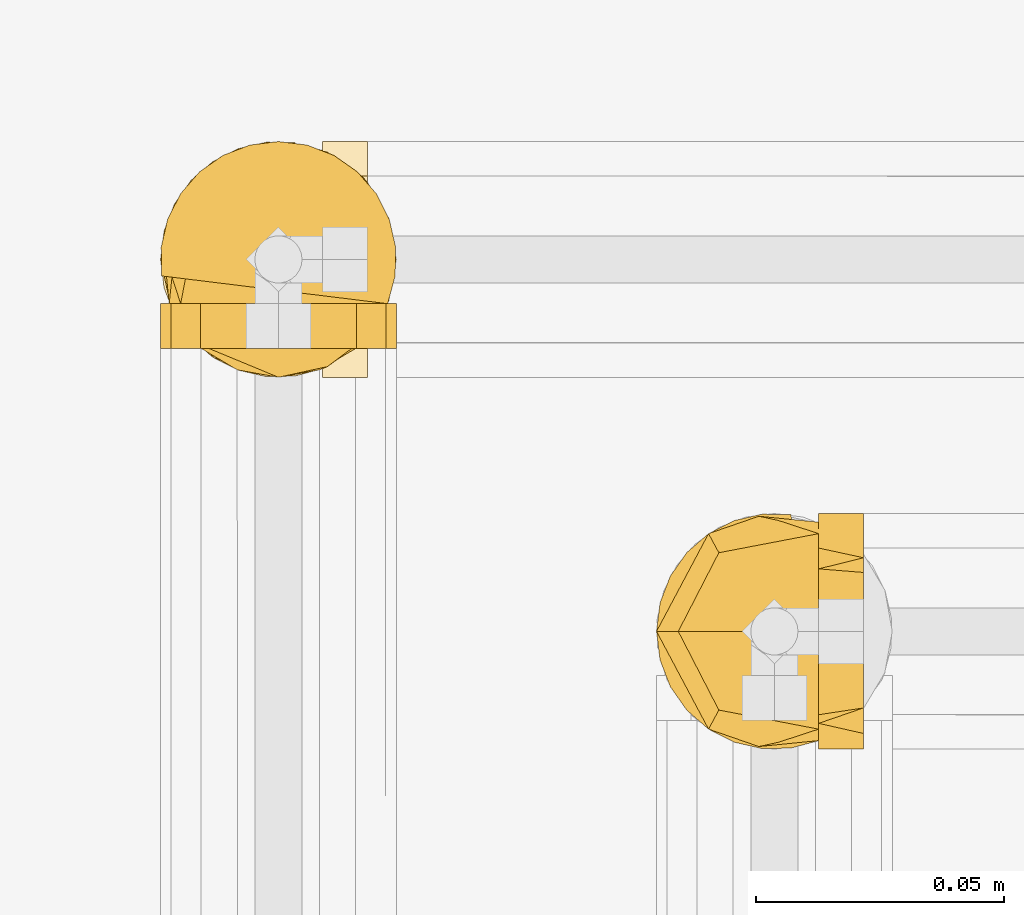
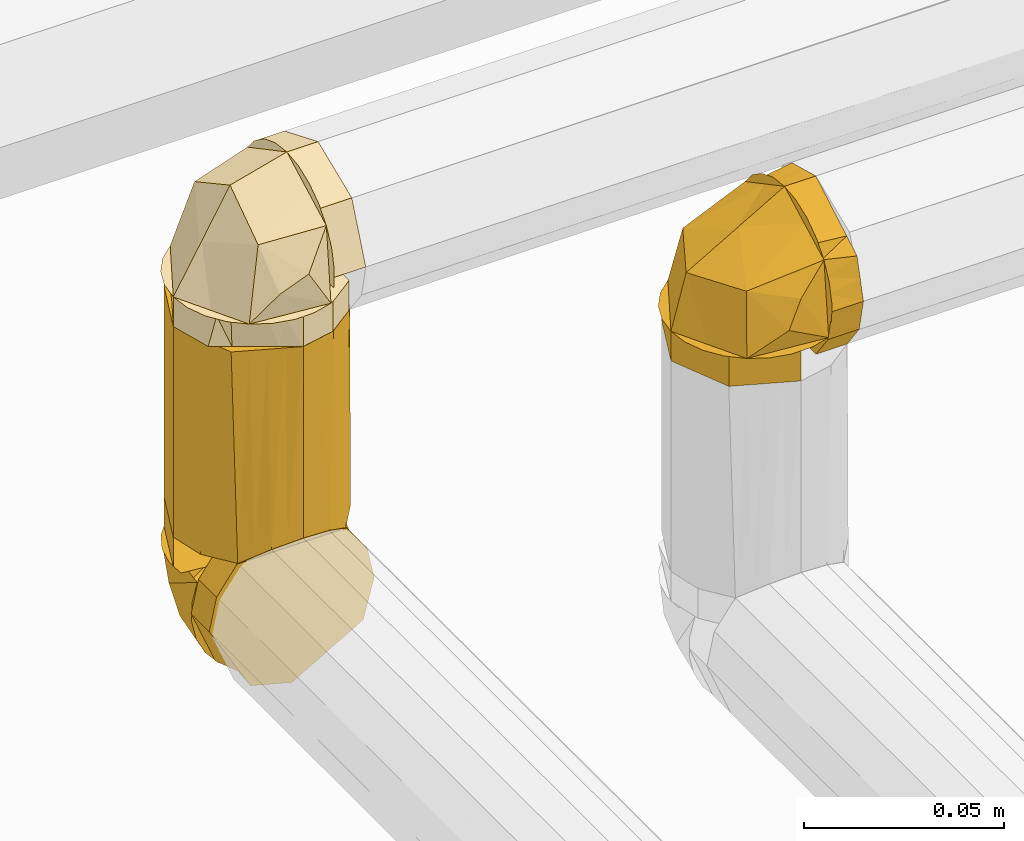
# One storey, part 353 of 652: 4 coverings.
"""IFC2X3 building model written with IfcOpenShell, lengths in millimetres."""

import ifcopenshell
import ifcopenshell.guid

model = None  # the IFC model being written
_history = None  # IfcOwnerHistory: only IFC2X3 demands one
_inside = {}  # id of a spatial element -> (the spatial element, [elements in it])
_under = {}  # id of a project, library or spatial element -> (it, [spatial elements below it])
_declared = {}  # id of a project -> (the project, [libraries it declares])
_typed = {}  # id of a type object -> (the type object, [elements of that type])
_made_of = {}  # id of a material, layer set ... -> (it, [elements and type objects made of it])


def new_model(schema):
    """Start an empty IFC model of exactly this schema.

    Asked for "IFC4X3", IfcOpenShell would pick the latest addendum, in which some entities
    have other attributes; the version numbers below select the first issue.
    IFC2X3 requires an IfcOwnerHistory on every rooted entity: one is made here for all.
    """
    global model, _history
    if schema == "IFC4X3":
        model = ifcopenshell.file(schema_version=(4, 3, 0, 0))
    else:
        model = ifcopenshell.file(schema=schema)
    _inside.clear()
    _under.clear()
    _declared.clear()
    _typed.clear()
    _made_of.clear()
    _history = None
    if model.schema == "IFC2X3":
        org = make("IfcOrganization", Name="unknown")
        user = make(
            "IfcPersonAndOrganization",
            ThePerson=make("IfcPerson", FamilyName="unknown"),
            TheOrganization=org,
        )
        app = make(
            "IfcApplication",
            ApplicationDeveloper=org,
            Version="unknown",
            ApplicationFullName="unknown",
            ApplicationIdentifier="unknown",
        )
        _history = make(
            "IfcOwnerHistory",
            OwningUser=user,
            OwningApplication=app,
            ChangeAction="ADDED",
            CreationDate=0,
        )
    return model


def make(cls, **values):
    """One entity of the class cls with the attributes given. An attribute that is None is left unset."""
    return model.create_entity(
        cls, **{name: value for name, value in values.items() if value is not None}
    )


def entity(cls, *values):
    """Any entity or typed value of the class cls, its attributes in the order of the schema. None: left unset."""
    e = model.create_entity(cls)
    for i, value in enumerate(values):
        if value is not None:
            e[i] = value
    return e


def rooted(cls, **values):
    """An entity with a GlobalId (a new one), such as an element, a storey or a relation."""
    return make(cls, GlobalId=ifcopenshell.guid.new(), OwnerHistory=_history, **values)


def si_unit(unit_type, name, prefix=None):
    """IfcSIUnit, for example si_unit("LENGTHUNIT", "METRE", prefix="MILLI")."""
    return make("IfcSIUnit", UnitType=unit_type, Prefix=prefix, Name=name)


def converted_unit(unit_type, name, factor, base, dimensions=None, offset=None):
    """IfcConversionBasedUnit, such as the inch: factor (a typed value) times the base unit."""
    return make(
        "IfcConversionBasedUnit"
        if offset is None
        else "IfcConversionBasedUnitWithOffset",
        ConversionOffset=offset,
        Dimensions=None
        if dimensions is None
        else entity("IfcDimensionalExponents", *dimensions),
        UnitType=unit_type,
        Name=name,
        ConversionFactor=make(
            "IfcMeasureWithUnit", ValueComponent=factor, UnitComponent=base
        ),
    )


def assignment(units):
    """IfcUnitAssignment: the units of a project."""
    return None if units is None else make("IfcUnitAssignment", Units=units)


def point(xyz):
    """IfcCartesianPoint."""
    return None if xyz is None else make("IfcCartesianPoint", Coordinates=xyz)


def direction(xyz):
    """IfcDirection."""
    return None if xyz is None else make("IfcDirection", DirectionRatios=xyz)


def frame(location, z_axis=None, x_axis=None):
    """IfcAxis2Placement3D, a coordinate frame: its origin and axes. An axis left out is left unset."""
    return make(
        "IfcAxis2Placement3D",
        Location=point(location),
        Axis=direction(z_axis),
        RefDirection=direction(x_axis),
    )


def origin():
    """The frame at (0, 0, 0) with its axes left unset."""
    return frame((0.0, 0.0, 0.0))


def place(relative_to, where):
    """IfcLocalPlacement: puts the frame where relative to a parent placement (None: the world)."""
    return make(
        "IfcLocalPlacement", PlacementRelTo=relative_to, RelativePlacement=where
    )


def context(
    kind, dimensions, precision=None, world=None, true_north=None, identifier=None
):
    """IfcGeometricRepresentationContext, for example the 3D "Model" context."""
    return make(
        "IfcGeometricRepresentationContext",
        ContextIdentifier=identifier,
        ContextType=kind,
        CoordinateSpaceDimension=dimensions,
        Precision=precision,
        WorldCoordinateSystem=world,
        TrueNorth=true_north,
    )


def subcontext(parent, identifier, kind, view, scale=None):
    """IfcGeometricRepresentationSubContext, for example "Body" below "Model"."""
    return make(
        "IfcGeometricRepresentationSubContext",
        ContextIdentifier=identifier,
        ContextType=kind,
        ParentContext=parent,
        TargetScale=scale,
        TargetView=view,
    )


def project(units=None, contexts=None):
    """IfcProject with its units and contexts."""
    return rooted(
        "IfcProject",
        Name="project",
        RepresentationContexts=contexts,
        UnitsInContext=assignment(units),
    )


def spatial(cls, under=None, at=None, **own):
    """A site, building, storey or space (cls), placed at a placement, below another one or the project."""
    s = rooted(cls, ObjectPlacement=at, **own)
    if under is not None:
        _under.setdefault(under.id(), (under, []))[1].append(s)
    return s


def faces_of(points, faces, orient=None, outer=None):
    """IfcFace entities. A face is a list of loops; a loop is a list of indices into points, from 0.

    orient and outer hold one flag for each loop. By default every Orientation is true, the
    first loop of a face is its IfcFaceOuterBound and the others are IfcFaceBound.
    """
    made = []
    for i, loops in enumerate(faces):
        bounds = []
        for j, loop in enumerate(loops):
            is_outer = j == 0 if outer is None else outer[i][j]
            bounds.append(
                make(
                    "IfcFaceOuterBound" if is_outer else "IfcFaceBound",
                    Bound=make("IfcPolyLoop", Polygon=[points[k] for k in loop]),
                    Orientation=True if orient is None else orient[i][j],
                )
            )
        made.append(make("IfcFace", Bounds=bounds))
    return made


def face_set(faces, orient=None, outer=None):
    """The faces of one IfcConnectedFaceSet. surface_model builds it on its shared points."""
    return ("IfcConnectedFaceSet", faces, orient, outer)


def faceted_brep(points, faces, orient=None, outer=None, voids=None):
    """IfcFacetedBrep: a solid bounded by flat faces; with voids (closed shells), ...WithVoids."""
    shared = [point(p) for p in points]
    hull = make("IfcClosedShell", CfsFaces=faces_of(shared, faces, orient, outer))
    if voids is None:
        return make("IfcFacetedBrep", Outer=hull)
    return make(
        "IfcFacetedBrepWithVoids",
        Outer=hull,
        Voids=[
            make(cls, CfsFaces=faces_of(shared, fs, o, b)) for cls, fs, o, b in voids
        ],
    )


def surface_model(cls, points, shells):
    """IfcFaceBasedSurfaceModel or IfcShellBasedSurfaceModel (cls): surfaces that need not close."""
    shared = [point(p) for p in points]
    made = [make(c, CfsFaces=faces_of(shared, fs, o, b)) for c, fs, o, b in shells]
    if cls == "IfcFaceBasedSurfaceModel":
        return make(cls, FbsmFaces=made)
    return make(cls, SbsmBoundary=made)


def shape(context_of_items, identifier, shape_type, items):
    """IfcShapeRepresentation: the items that make up one representation, for example the "Body"."""
    return make(
        "IfcShapeRepresentation",
        ContextOfItems=context_of_items,
        RepresentationIdentifier=identifier,
        RepresentationType=shape_type,
        Items=items,
    )


def material(Name=None, Category=None):
    """IfcMaterial."""
    return make("IfcMaterial", Name=Name, Category=Category)


def made_of(thing, what):
    """Note that an element or type object is made of a material, layer set ...; save() writes the relation."""
    if what is not None:
        _made_of.setdefault(what.id(), (what, []))[1].append(thing)
    return thing


def type_object(cls, material=None, **own):
    """A type object (cls), such as IfcWallType, which elements share."""
    return made_of(rooted(cls, **own), material)


def element(
    cls,
    number,
    at=None,
    inside=None,
    cuts=None,
    type_object=None,
    material=None,
    context=None,
    identifier="Body",
    shape_type=None,
    held_by="IfcProductDefinitionShape",
    body=None,
    shapes=None,
    **own,
):
    """One element of the class cls, such as IfcWall. Its Tag is "e" and its number.

    at: its placement. inside: the storey or other place that contains it. cuts: it is an
    opening in that element (IfcRelVoidsElement). A single representation is given by context,
    identifier, shape_type and body (its items); several are given by shapes. held_by: the class
    of the entity that holds the representations. save() writes the other relations.
    """
    e = rooted(cls, Tag="e%d" % number, ObjectPlacement=at, **own)
    if body is not None:
        shapes = [shape(context, identifier, shape_type, body)]
    if shapes is not None:
        e.Representation = make(held_by, Representations=shapes)
    if inside is not None:
        _inside.setdefault(inside.id(), (inside, []))[1].append(e)
    if cuts is not None:
        rooted(
            "IfcRelVoidsElement", RelatingBuildingElement=cuts, RelatedOpeningElement=e
        )
    if type_object is not None:
        _typed.setdefault(type_object.id(), (type_object, []))[1].append(e)
    return made_of(e, material)


def aggregate(whole, parts):
    """IfcRelAggregates: a whole, such as a stair, and the parts it consists of."""
    return rooted("IfcRelAggregates", RelatingObject=whole, RelatedObjects=parts)


def save(model, path):
    """Write the relations noted so far, then the file.

    IfcRelAggregates (storeys below a building ...), IfcRelContainedInSpatialStructure (elements
    in a storey), IfcRelDefinesByType, IfcRelAssociatesMaterial and IfcRelDeclares: one each for
    every whole, place, type object, material and project.
    """
    for whole, parts in _under.values():
        aggregate(whole, parts)
    for where, things in _inside.values():
        rooted(
            "IfcRelContainedInSpatialStructure",
            RelatedElements=things,
            RelatingStructure=where,
        )
    for kind, things in _typed.values():
        rooted("IfcRelDefinesByType", RelatedObjects=things, RelatingType=kind)
    for what, things in _made_of.values():
        rooted("IfcRelAssociatesMaterial", RelatedObjects=things, RelatingMaterial=what)
    for by, libraries in _declared.values():
        rooted("IfcRelDeclares", RelatingContext=by, RelatedDefinitions=libraries)
    model.write(path)


model = new_model("IFC2X3")

# Units and contexts
model_context = context("Model", 3, precision=0.01, world=frame((0.0, 0.0, 308426.39999999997)), true_north=direction((6.123233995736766e-17, 1.0)))
plan_context = context("Plan", 3, precision=0.01, world=frame((0.0, 0.0, 308426.39999999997)), true_north=direction((6.123233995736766e-17, 1.0)))
body_context = subcontext(model_context, "Body", "Model", "MODEL_VIEW")
ifc_project = project(units=[si_unit("LENGTHUNIT", "METRE", prefix="MILLI"), si_unit("AREAUNIT", "SQUARE_METRE"), si_unit("VOLUMEUNIT", "CUBIC_METRE"), converted_unit("PLANEANGLEUNIT", "DEGREE", entity("IfcPlaneAngleMeasure", 0.017453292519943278), si_unit("PLANEANGLEUNIT", "RADIAN"), dimensions=[0, 0, 0, 0, 0, 0, 0])], contexts=[model_context, plan_context])

# Site, building, storey
site_placement = place(None, origin())
site = spatial("IfcSite", under=ifc_project, at=site_placement, Name="Default", CompositionType="ELEMENT")
building_placement = place(site_placement, origin())
building = spatial("IfcBuilding", under=site, at=building_placement, CompositionType="ELEMENT")
storey_placement = place(building_placement, frame((0.0, 0.0, 1730.6999999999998)))
storey = spatial("IfcBuildingStorey", under=building, at=storey_placement, Name="EG_Produktion_FFB", CompositionType="ELEMENT", Elevation=1730.6999999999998)

# Coverings
ifc_material = material(Name="Dämmung - Armaflex-Schlauch")
covering_type = type_object("IfcCoveringType", Name="Rohrdämmung außen:Armaflex-Schlauch", PredefinedType="INSULATION")
covering_1_placement = place(storey_placement, frame((47924.642227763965, 41324.64067746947, 3780.611079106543)))
element("IfcCovering", 1, at=covering_1_placement, inside=storey, type_object=covering_type, material=ifc_material, Name="Rohrdämmung außen:Armaflex-Schlauch", ObjectType="Rohrdämmung außen:Armaflex-Schlauch", PredefinedType="INSULATION", context=body_context, shape_type="SurfaceModel", body=[
    surface_model("IfcFaceBasedSurfaceModel", [(34.28827223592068, 3.3372686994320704, 10.458420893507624), (28.691896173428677, 1.8303409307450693, 10.458420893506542), (22.897179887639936, 1.7230119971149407, 10.458420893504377), (17.248839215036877, 3.0216666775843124, 10.458420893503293), (12.082882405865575, 5.649050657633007, 10.45842089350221), (7.706621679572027, 9.448866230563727, 10.458420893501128), (4.380391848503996, 14.19507012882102, 10.458420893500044), (2.3020635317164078, 19.605320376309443, 10.458420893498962), (1.5952722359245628, 25.35777223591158, 10.458420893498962), (2.3020635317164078, 31.11022409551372, 10.458420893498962), (4.380391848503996, 36.52047434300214, 10.458420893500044), (7.706621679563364, 41.266678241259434, 10.458420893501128), (12.082882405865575, 45.06649381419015, 10.45842089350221), (17.248839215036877, 47.69387779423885, 10.458420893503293), (22.897179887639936, 48.99253247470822, 10.458420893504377), (28.691896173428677, 48.88520354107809, 10.458420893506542), (34.28827223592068, 47.37827577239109, 10.458420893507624), (34.28827223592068, 1.8303409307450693, 16.05479695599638), (34.28827223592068, 1.7230119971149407, 21.849513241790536), (34.28827223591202, 3.0216666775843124, 27.49785391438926), (34.28827223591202, 5.649050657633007, 32.6638107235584), (34.28827223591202, 9.448866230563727, 37.04007144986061), (34.28827223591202, 14.19507012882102, 40.366301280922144), (34.28827223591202, 19.605320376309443, 42.44462959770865), (34.28827223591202, 25.35777223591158, 43.151420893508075), (34.28827223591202, 31.11022409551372, 42.44462959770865), (34.28827223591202, 36.52047434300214, 40.366301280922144), (34.28827223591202, 41.266678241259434, 37.04007144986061), (34.28827223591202, 45.06649381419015, 32.66381072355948), (34.28827223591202, 47.69387779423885, 27.497853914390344), (34.28827223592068, 48.99253247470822, 21.849513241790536), (34.28827223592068, 48.88520354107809, 16.05479695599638), (26.165792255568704, 2.99952028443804, 25.365503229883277), (14.152572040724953, 9.496798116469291, 27.8793032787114), (34.28622682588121, 4.47849977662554, 21.43202239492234), (6.7762780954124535, 15.61735475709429, 10.458273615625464), (5.976326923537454, 25.35629518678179, 26.80495025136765), (34.28622682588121, 15.50573366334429, 37.90776092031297), (21.221907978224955, 25.35629518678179, 35.606738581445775), (22.221846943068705, 2.13910768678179, 17.538655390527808), (23.184578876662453, 4.4924524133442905, 10.458273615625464), (26.165792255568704, 47.71772096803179, 25.365503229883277), (22.221846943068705, 48.573482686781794, 17.538655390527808), (14.152572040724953, 41.21579225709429, 27.8793032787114), (6.7762780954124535, 35.09988649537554, 10.458273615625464), (34.28622682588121, 46.23409059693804, 21.43202239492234), (34.28622682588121, 35.09988649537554, 37.9688037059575), (20.133602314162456, 25.35629518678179, 34.97828856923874), (23.184578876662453, 46.22013796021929, 10.458273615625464), (25.356539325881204, 1.59495485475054, 1.4384753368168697), (25.356539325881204, 1.59495485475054, 10.458273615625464), (8.552913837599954, 8.55732057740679, 10.458273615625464), (8.552913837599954, 8.55732057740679, 1.4384753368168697), (1.5951989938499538, 25.35629518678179, 10.458273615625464), (1.5951989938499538, 25.35629518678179, 1.4384753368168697), (8.552913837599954, 42.15992067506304, 10.458273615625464), (8.552913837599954, 42.15992067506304, 1.4384753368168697), (25.356539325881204, 49.12228639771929, 10.458273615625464), (25.356539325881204, 49.12228639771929, 1.4384753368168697), (43.30802223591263, 46.14995973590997, 24.533653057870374), (43.30802223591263, 43.179647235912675, 29.67838522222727), (43.30802223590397, 40.20933473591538, 34.823117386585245), (43.30802223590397, 37.239022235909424, 39.96784955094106), (43.30802223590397, 31.29839723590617, 41.55963522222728), (43.30802223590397, 25.35777223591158, 43.15142089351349), (43.30802223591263, 20.21304007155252, 40.18110839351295), (43.30802223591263, 15.068307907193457, 37.210795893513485), (43.30802223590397, 9.92357574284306, 34.240483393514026), (43.30802223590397, 4.778843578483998, 31.270170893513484), (43.30802223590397, 3.1870579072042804, 25.32954589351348), (43.30802223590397, 1.5952722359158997, 19.38892089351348), (43.30802223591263, 2.6431209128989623, 14.510241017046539), (43.30802223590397, 3.690969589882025, 9.631561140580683), (43.30802223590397, 6.64968879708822, 5.613416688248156), (43.30802223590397, 9.608408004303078, 1.595272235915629), (43.30802223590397, 41.107136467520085, 1.595272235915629), (43.30802223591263, 44.06585567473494, 5.613416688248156), (43.30802223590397, 47.024574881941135, 9.631561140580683), (43.30802223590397, 48.0724235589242, 14.510241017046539), (43.30802223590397, 49.12027223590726, 19.38892089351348), (34.28827223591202, 42.160397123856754, 36.19154578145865), (34.28827223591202, 43.90036590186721, 31.990889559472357), (34.28827223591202, 45.64033467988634, 27.790233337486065), (34.28827223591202, 47.3803034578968, 23.589577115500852), (34.28827223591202, 49.12027223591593, 19.38892089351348), (34.28827223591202, 48.0724235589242, 14.510241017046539), (34.28827223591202, 47.024574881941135, 9.6315611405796), (34.28827223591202, 43.985875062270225, 5.504797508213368), (34.28827223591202, 41.10713646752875, 1.595272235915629), (34.28827223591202, 9.608408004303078, 1.595272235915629), (34.28827223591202, 6.64968879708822, 5.613416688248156), (34.28827223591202, 3.690969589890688, 9.6315611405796), (34.28827223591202, 2.614795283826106, 14.64212234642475), (34.28827223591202, 1.5952722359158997, 19.38892089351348), (34.28827223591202, 3.3352410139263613, 23.58957711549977), (34.28827223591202, 5.075209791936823, 27.790233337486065), (34.28827223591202, 6.815178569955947, 31.990889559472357), (34.28827223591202, 8.55514734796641, 36.19154578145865), (34.28827223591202, 12.755803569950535, 37.93151455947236), (34.28827223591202, 16.956459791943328, 39.67148333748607), (34.28827223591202, 21.157116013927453, 41.41145211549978), (34.28827223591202, 25.35777223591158, 43.15142089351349), (34.28827223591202, 29.558428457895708, 41.41145211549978), (34.28827223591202, 33.759084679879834, 39.67148333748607), (34.28827223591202, 37.95974090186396, 37.93151455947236)], [face_set([[[0, 1, 2, 3, 4, 5, 6, 7, 8, 9, 10, 11, 12, 13, 14, 15]], [[16, 17, 18, 19, 20, 21, 22, 23, 24, 25, 26, 27, 28, 29, 30, 31]], [[32, 20, 33]], [[32, 34, 20]], [[33, 35, 4]], [[35, 33, 36]], [[36, 8, 35]], [[33, 37, 38]], [[39, 4, 40]], [[32, 33, 39]], [[34, 32, 0]], [[4, 39, 33]], [[38, 36, 33]], [[0, 32, 39]], [[33, 20, 37]], [[37, 24, 38]], [[0, 39, 40]], [[41, 16, 42]], [[43, 44, 36]], [[28, 45, 41]], [[46, 43, 47]], [[44, 8, 36]], [[12, 43, 42]], [[44, 43, 12]], [[42, 16, 48]], [[28, 43, 46]], [[16, 41, 45]], [[43, 41, 42]], [[43, 36, 47]], [[47, 24, 46]], [[28, 41, 43]], [[48, 12, 42]]]), face_set([[[49, 50, 51, 52]], [[53, 54, 52, 51]], [[54, 53, 55, 56]], [[57, 58, 56, 55]]]), face_set([[[59, 60, 61, 62, 63, 64, 65, 66, 67, 68, 69, 70, 71, 72, 73, 74, 75, 76, 77, 78, 79]], [[80, 81, 82, 83, 84, 85, 86, 87, 88, 89, 90, 91, 92, 93, 94, 95, 96, 97, 98, 99, 100, 101, 102, 103, 104]], [[75, 74, 89, 88]], [[71, 70, 93, 92, 91, 72]], [[73, 72, 91, 90, 89, 74]], [[96, 67, 97]], [[64, 100, 65]], [[100, 99, 65]], [[69, 95, 94]], [[94, 93, 70]], [[67, 96, 68]], [[66, 99, 98]], [[64, 101, 100]], [[99, 66, 65]], [[70, 69, 94]], [[98, 97, 67]], [[96, 95, 68]], [[69, 68, 95]], [[66, 98, 67]], [[104, 61, 80]], [[79, 83, 59]], [[83, 82, 59]], [[63, 103, 102]], [[102, 101, 64]], [[61, 104, 62]], [[60, 82, 81]], [[79, 84, 83]], [[82, 60, 59]], [[64, 63, 102]], [[81, 80, 61]], [[104, 103, 62]], [[63, 62, 103]], [[60, 81, 61]], [[76, 75, 88, 87, 86, 77]], [[78, 77, 86, 85, 84, 79]]])]),
])
covering_2_placement = place(storey_placement, frame((47824.64222775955, 41399.64067746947, 3780.611079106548)))
element("IfcCovering", 2, at=covering_2_placement, inside=storey, type_object=covering_type, material=ifc_material, Name="Rohrdämmung außen:Armaflex-Schlauch", ObjectType="Rohrdämmung außen:Armaflex-Schlauch", PredefinedType="INSULATION", context=body_context, shape_type="SurfaceModel", body=[
    surface_model("IfcFaceBasedSurfaceModel", [(34.28827223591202, 47.37827577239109, 10.458420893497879), (34.28827223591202, 1.8303409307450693, 16.054796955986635), (34.28827223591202, 1.7230119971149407, 21.84951324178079), (34.28827223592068, 3.0216666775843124, 27.4978539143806), (34.28827223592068, 5.649050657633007, 32.66381072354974), (34.28827223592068, 9.448866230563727, 37.04007144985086), (34.28827223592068, 14.19507012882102, 40.3663012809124), (34.28827223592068, 19.605320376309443, 42.444629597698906), (34.28827223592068, 25.35777223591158, 43.15142089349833), (34.28827223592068, 31.11022409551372, 42.444629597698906), (34.28827223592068, 36.52047434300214, 40.3663012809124), (34.28827223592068, 41.266678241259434, 37.04007144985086), (34.28827223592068, 45.06649381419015, 32.66381072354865), (34.28827223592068, 47.69387779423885, 27.497853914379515), (34.28827223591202, 48.99253247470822, 21.84951324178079), (34.28827223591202, 48.88520354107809, 16.054796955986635), (34.28827223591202, 3.3372686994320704, 10.458420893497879), (28.691896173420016, 1.8303409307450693, 10.458420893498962), (22.897179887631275, 1.7230119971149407, 10.458420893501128), (17.248839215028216, 3.0216666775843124, 10.45842089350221), (12.082882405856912, 5.649050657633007, 10.458420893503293), (7.706621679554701, 9.448866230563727, 10.458420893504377), (4.380391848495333, 14.19507012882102, 10.458420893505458), (2.302063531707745, 19.605320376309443, 10.458420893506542), (1.5952722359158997, 25.35777223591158, 10.458420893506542), (2.302063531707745, 31.11022409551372, 10.458420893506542), (4.380391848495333, 36.52047434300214, 10.458420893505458), (7.706621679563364, 41.266678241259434, 10.458420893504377), (12.082882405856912, 45.06649381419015, 10.458420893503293), (17.248839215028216, 47.69387779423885, 10.45842089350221), (22.897179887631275, 48.99253247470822, 10.458420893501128), (28.691896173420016, 48.88520354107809, 10.458420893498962), (19.38161257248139, 47.71779421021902, 18.580452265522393), (16.86548708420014, 41.21586549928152, 30.59541655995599), (23.31625612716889, 46.234163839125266, 10.45827361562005), (34.287679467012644, 35.09995973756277, 37.968803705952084), (17.93984011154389, 25.356368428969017, 38.77166167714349), (6.83819216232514, 35.211580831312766, 10.45827361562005), (9.140377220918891, 25.356368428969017, 23.52666198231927), (27.20904177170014, 48.57355592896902, 22.523816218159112), (34.287679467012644, 46.22021120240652, 21.56108428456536), (19.38161257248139, 2.9995935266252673, 18.580452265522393), (27.20904177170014, 2.1391809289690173, 22.523816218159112), (16.86548708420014, 9.496871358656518, 30.59541655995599), (34.287679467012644, 15.617427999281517, 37.968803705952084), (23.31625612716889, 4.478573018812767, 10.45827361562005), (6.77773073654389, 15.617427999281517, 10.45827361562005), (9.768245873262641, 25.356368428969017, 24.614967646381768), (34.287679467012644, 4.492525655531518, 21.56108428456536), (43.30573366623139, 49.12235963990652, 19.389123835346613), (34.287679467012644, 49.12235963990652, 19.389123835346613), (34.287679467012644, 42.15999391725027, 36.1915866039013), (43.30573366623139, 42.15999391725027, 36.1915866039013), (34.287679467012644, 25.356368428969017, 43.15162688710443), (43.30573366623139, 25.356368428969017, 43.15162688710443), (34.287679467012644, 8.557393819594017, 36.1915866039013), (43.30573366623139, 8.557393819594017, 36.1915866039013), (34.287679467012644, 1.5950280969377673, 19.389123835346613), (43.30573366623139, 1.5950280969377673, 19.389123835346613), (20.213040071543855, 4.565584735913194, 1.4386708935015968), (15.068307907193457, 7.535897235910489, 1.4386708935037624), (9.923575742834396, 10.506209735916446, 1.4386708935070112), (4.7788435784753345, 13.47652223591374, 1.4386708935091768), (3.1870579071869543, 19.417147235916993, 1.4386708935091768), (1.5952722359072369, 25.35777223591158, 1.4386708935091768), (4.565584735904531, 30.50250440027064, 1.4386708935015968), (7.535897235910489, 35.6472365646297, 1.4386708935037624), (10.50620973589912, 40.7919687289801, 1.4386708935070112), (13.476522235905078, 45.936700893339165, 1.4386708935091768), (19.417147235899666, 47.52848656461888, 1.4386708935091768), (25.357772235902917, 49.12027223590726, 1.4386708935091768), (30.236452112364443, 48.0724235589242, 1.4386708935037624), (35.11513198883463, 47.024574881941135, 1.4386708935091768), (39.133276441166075, 44.06585567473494, 1.4386708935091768), (43.151420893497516, 41.107136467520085, 1.4386708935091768), (43.151420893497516, 9.608408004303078, 1.4386708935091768), (39.133276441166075, 6.64968879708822, 1.4386708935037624), (35.11513198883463, 3.690969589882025, 1.4386708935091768), (30.236452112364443, 2.6431209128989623, 1.4386708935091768), (25.357772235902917, 1.5952722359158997, 1.4386708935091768), (8.555147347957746, 8.55514734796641, 10.458420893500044), (12.755803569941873, 6.815178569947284, 10.458420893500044), (16.956459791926, 5.075209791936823, 10.458420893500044), (21.15711601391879, 3.3352410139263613, 10.458420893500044), (25.357772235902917, 1.5952722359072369, 10.458420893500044), (30.236452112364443, 2.6431209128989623, 10.458420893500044), (35.11513198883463, 3.690969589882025, 10.458420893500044), (39.24189562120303, 6.729669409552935, 10.458420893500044), (43.151420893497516, 9.608408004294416, 10.458420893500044), (43.151420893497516, 41.107136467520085, 10.458420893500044), (39.133276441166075, 44.06585567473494, 10.458420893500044), (35.11513198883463, 47.02457488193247, 10.458420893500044), (30.10457078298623, 48.10074918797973, 10.458420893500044), (25.357772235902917, 49.12027223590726, 10.458420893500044), (21.157116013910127, 47.3803034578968, 10.458420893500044), (16.956459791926, 45.64033467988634, 10.458420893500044), (12.755803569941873, 43.90036590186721, 10.458420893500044), (8.555147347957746, 42.160397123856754, 10.458420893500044), (6.815178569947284, 37.95974090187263, 10.458420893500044), (5.075209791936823, 33.759084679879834, 10.458420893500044), (3.3352410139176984, 29.558428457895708, 10.458420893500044), (1.5952722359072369, 25.35777223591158, 10.458420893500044), (3.3352410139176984, 21.157116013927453, 10.458420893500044), (5.075209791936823, 16.956459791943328, 10.458420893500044), (6.815178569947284, 12.755803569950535, 10.458420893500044)], [face_set([[[0, 1, 2, 3, 4, 5, 6, 7, 8, 9, 10, 11, 12, 13, 14, 15]], [[16, 17, 18, 19, 20, 21, 22, 23, 24, 25, 26, 27, 28, 29, 30, 31]], [[32, 28, 33]], [[32, 34, 28]], [[33, 35, 12]], [[35, 33, 36]], [[36, 8, 35]], [[33, 37, 38]], [[39, 12, 40]], [[32, 33, 39]], [[34, 32, 0]], [[12, 39, 33]], [[38, 36, 33]], [[0, 32, 39]], [[33, 28, 37]], [[37, 24, 38]], [[0, 39, 40]], [[41, 16, 42]], [[43, 44, 36]], [[20, 45, 41]], [[46, 43, 47]], [[44, 8, 36]], [[4, 43, 42]], [[44, 43, 4]], [[42, 16, 48]], [[20, 43, 46]], [[16, 41, 45]], [[43, 41, 42]], [[43, 36, 47]], [[47, 24, 46]], [[20, 41, 43]], [[48, 4, 42]]]), face_set([[[49, 50, 51, 52]], [[53, 54, 52, 51]], [[54, 53, 55, 56]], [[57, 58, 56, 55]]]), face_set([[[59, 60, 61, 62, 63, 64, 65, 66, 67, 68, 69, 70, 71, 72, 73, 74, 75, 76, 77, 78, 79]], [[80, 81, 82, 83, 84, 85, 86, 87, 88, 89, 90, 91, 92, 93, 94, 95, 96, 97, 98, 99, 100, 101, 102, 103, 104]], [[75, 74, 89, 88]], [[71, 70, 93, 92, 91, 72]], [[73, 72, 91, 90, 89, 74]], [[96, 67, 97]], [[64, 100, 65]], [[100, 99, 65]], [[69, 95, 94]], [[94, 93, 70]], [[67, 96, 68]], [[66, 99, 98]], [[64, 101, 100]], [[99, 66, 65]], [[70, 69, 94]], [[98, 97, 67]], [[96, 95, 68]], [[69, 68, 95]], [[66, 98, 67]], [[104, 61, 80]], [[79, 83, 59]], [[83, 82, 59]], [[63, 103, 102]], [[102, 101, 64]], [[61, 104, 62]], [[60, 82, 81]], [[79, 84, 83]], [[82, 60, 59]], [[64, 63, 102]], [[81, 80, 61]], [[104, 103, 62]], [[63, 62, 103]], [[60, 81, 61]], [[76, 75, 88, 87, 86, 77]], [[78, 77, 86, 85, 84, 79]]])]),
])
covering_3_placement = place(storey_placement, frame((47824.64222775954, 41399.64067746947, 3716.35497776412)))
element("IfcCovering", 3, at=covering_3_placement, inside=storey, type_object=covering_type, material=ifc_material, Name="Rohrdämmung außen:Armaflex-Schlauch", ObjectType="Rohrdämmung außen:Armaflex-Schlauch", PredefinedType="INSULATION", context=body_context, shape_type="Brep", body=[
    faceted_brep([(43.30802223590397, 9.78712898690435, 65.69477223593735), (43.30802223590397, 40.92841548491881, 65.69477223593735), (39.267438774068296, 43.951164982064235, 65.69477223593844), (35.22685531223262, 46.97391447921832, 65.69477223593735), (30.292313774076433, 48.047093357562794, 65.69477223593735), (25.35777223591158, 49.12027223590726, 65.69477223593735), (20.400263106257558, 47.06680471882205, 65.69477223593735), (16.956459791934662, 45.64033467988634, 65.69477223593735), (12.755803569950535, 43.90036590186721, 65.69477223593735), (8.55514734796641, 42.160397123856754, 65.69477223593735), (6.815178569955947, 37.95974090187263, 65.69477223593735), (5.075209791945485, 33.759084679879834, 65.69477223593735), (3.335241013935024, 29.558428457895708, 65.69477223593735), (1.5952722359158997, 25.35777223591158, 65.69477223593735), (3.335241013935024, 21.157116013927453, 65.69477223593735), (5.075209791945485, 16.956459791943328, 65.69477223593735), (6.815178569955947, 12.755803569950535, 65.69477223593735), (8.55514734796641, 8.55514734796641, 65.69477223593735), (12.755803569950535, 6.815178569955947, 65.69477223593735), (16.956459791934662, 5.075209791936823, 65.69477223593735), (21.157116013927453, 3.3352410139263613, 65.69477223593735), (25.35777223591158, 1.5952722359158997, 65.69477223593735), (30.292313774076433, 2.6684511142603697, 65.69477223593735), (35.22685531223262, 3.7416299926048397, 65.69477223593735), (39.267438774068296, 6.764379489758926, 65.69477223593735), (40.92841548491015, 7.407522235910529, 1.595272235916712), (9.787128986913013, 7.407522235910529, 1.595272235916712), (6.764379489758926, 11.4481056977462, 1.595272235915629), (3.7416299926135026, 15.488689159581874, 1.595272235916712), (2.6684511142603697, 20.423230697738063, 1.595272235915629), (1.5952722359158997, 25.35777223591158, 1.595272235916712), (3.648739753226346, 30.31528136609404, 1.595272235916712), (5.702207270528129, 35.27279049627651, 1.595272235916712), (8.55514734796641, 42.160397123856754, 1.595272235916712), (12.755803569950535, 43.90036590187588, 1.595272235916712), (16.956459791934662, 45.64033467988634, 1.595272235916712), (21.15711601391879, 47.3803034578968, 1.595272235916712), (25.35777223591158, 49.12027223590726, 1.595272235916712), (30.315281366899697, 47.066804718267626, 1.595272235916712), (33.759084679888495, 45.64033467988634, 1.595272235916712), (37.95974090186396, 43.90036590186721, 1.595272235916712), (42.160397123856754, 42.160397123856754, 1.595272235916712), (43.90036590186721, 37.95974090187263, 1.595272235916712), (45.640334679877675, 33.759084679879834, 1.595272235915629), (47.38030345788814, 29.558428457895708, 1.595272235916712), (49.12027223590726, 25.35777223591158, 1.595272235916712), (48.047093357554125, 20.423230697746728, 1.595272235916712), (46.97391447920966, 15.488689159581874, 1.595272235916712), (43.951164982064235, 11.4481056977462, 1.595272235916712), (21.202751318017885, 2.345488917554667, 6.657305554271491), (25.35777223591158, 1.5952722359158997, 7.407522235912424), (13.417429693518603, 5.251613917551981, 3.7511805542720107), (17.04773040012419, 3.095705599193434, 5.907088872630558), (37.29811477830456, 5.251613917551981, 3.7511805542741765), (33.66781407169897, 3.095705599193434, 5.907088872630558), (30.746379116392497, 2.568221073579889, 6.434573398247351), (48.37005555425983, 21.202751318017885, 60.63273891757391), (49.12027223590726, 25.35777223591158, 59.882522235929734), (45.46393055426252, 13.41742969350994, 63.53886391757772), (47.61983887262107, 17.04773040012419, 61.38295559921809), (48.37005555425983, 29.512793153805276, 60.63273891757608), (45.46393055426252, 37.29811477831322, 63.53886391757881), (47.61983887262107, 33.66781407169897, 61.38295559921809)], [[[0, 1, 2, 3, 4, 5, 6, 7, 8, 9, 10, 11, 12, 13, 14, 15, 16, 17, 18, 19, 20, 21, 22, 23, 24]], [[25, 26, 27, 28, 29, 30, 31, 32, 33, 34, 35, 36, 37, 38, 39, 40, 41, 42, 43, 44, 45, 46, 47, 48]], [[30, 14, 13]], [[14, 30, 29]], [[49, 50, 21]], [[29, 15, 14]], [[26, 17, 27]], [[29, 28, 15]], [[51, 52, 19]], [[18, 26, 51]], [[19, 52, 20]], [[28, 27, 16]], [[28, 16, 15]], [[49, 21, 20]], [[17, 26, 18]], [[20, 52, 49]], [[27, 17, 16]], [[51, 19, 18]], [[53, 25, 24]], [[54, 22, 50, 55]], [[22, 54, 23]], [[50, 22, 21]], [[53, 24, 23]], [[0, 25, 48]], [[56, 45, 57]], [[23, 54, 53]], [[58, 0, 48]], [[59, 47, 46]], [[47, 59, 58]], [[25, 0, 24]], [[47, 58, 48]], [[56, 59, 46]], [[45, 56, 46]], [[45, 60, 57]], [[40, 39, 3]], [[60, 45, 44]], [[1, 42, 41]], [[61, 43, 42]], [[41, 2, 1]], [[39, 4, 3]], [[61, 62, 43]], [[43, 62, 44]], [[37, 4, 39, 38]], [[42, 1, 61]], [[40, 3, 2]], [[2, 41, 40]], [[44, 62, 60]], [[37, 5, 4]], [[30, 13, 12, 11, 10, 9, 33, 32, 31]], [[8, 7, 6, 5, 37, 36, 35, 34, 33, 9]], [[0, 58, 59, 56, 57, 60, 62, 61, 1]], [[25, 53, 54, 55, 50, 49, 52, 51, 26]]]),
])
covering_4_placement = place(storey_placement, frame((47824.642227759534, 41405.60952881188, 3674.642227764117)))
element("IfcCovering", 4, at=covering_4_placement, inside=storey, type_object=covering_type, material=ifc_material, Name="Rohrdämmung außen:Armaflex-Schlauch", ObjectType="Rohrdämmung außen:Armaflex-Schlauch", PredefinedType="INSULATION", context=body_context, shape_type="SurfaceModel", body=[
    surface_model("IfcFaceBasedSurfaceModel", [(47.37827577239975, 10.458420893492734, 34.2882722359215), (48.88520354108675, 16.054796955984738, 34.28827223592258), (48.99253247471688, 21.84951324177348, 34.288272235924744), (47.69387779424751, 27.497853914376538, 34.288272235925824), (45.066493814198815, 32.66381072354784, 34.28827223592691), (41.266678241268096, 37.04007144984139, 34.28827223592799), (36.520474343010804, 40.36630128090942, 34.28827223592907), (31.110224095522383, 42.44462959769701, 34.28827223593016), (25.357772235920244, 43.151420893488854, 34.28827223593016), (19.605320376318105, 42.44462959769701, 34.28827223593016), (14.195070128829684, 40.36630128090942, 34.28827223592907), (9.44886623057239, 37.04007144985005, 34.28827223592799), (5.649050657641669, 32.66381072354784, 34.28827223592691), (3.0216666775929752, 27.497853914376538, 34.288272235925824), (1.7230119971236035, 21.84951324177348, 34.288272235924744), (1.8303409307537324, 16.054796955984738, 34.28827223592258), (3.3372686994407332, 10.458420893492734, 34.2882722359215), (1.8303409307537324, 10.458420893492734, 28.69189617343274), (1.7230119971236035, 10.458420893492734, 22.897179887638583), (3.0216666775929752, 10.458420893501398, 17.248839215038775), (5.649050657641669, 10.458420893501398, 12.082882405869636), (9.44886623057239, 10.458420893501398, 7.706621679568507), (14.195070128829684, 10.458420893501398, 4.3803918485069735), (19.605320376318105, 10.458420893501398, 2.3020635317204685), (25.357772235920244, 10.458420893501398, 1.5952722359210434), (31.110224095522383, 10.458420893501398, 2.3020635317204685), (36.520474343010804, 10.458420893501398, 4.3803918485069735), (41.266678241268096, 10.458420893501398, 7.706621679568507), (45.066493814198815, 10.458420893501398, 12.08288240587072), (47.69387779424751, 10.458420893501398, 17.248839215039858), (48.99253247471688, 10.458420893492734, 22.897179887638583), (48.88520354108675, 10.458420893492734, 28.69189617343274), (47.71476686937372, 18.578264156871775, 19.38130434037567), (41.21748903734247, 30.596135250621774, 16.866922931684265), (46.23578737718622, 10.457829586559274, 23.31478517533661), (35.09693239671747, 37.96777831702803, 34.288533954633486), (25.357991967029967, 38.772380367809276, 17.941857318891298), (35.21320436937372, 10.457829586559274, 6.839046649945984), (25.357991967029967, 23.526799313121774, 9.140068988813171), (48.57517946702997, 22.522209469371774, 27.20815217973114), (46.221834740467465, 21.559477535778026, 34.288533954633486), (2.996566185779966, 18.578264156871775, 19.38130434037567), (2.140804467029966, 22.522209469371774, 27.20815217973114), (9.498494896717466, 30.596135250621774, 16.866922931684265), (15.619051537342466, 37.96777831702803, 34.288533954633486), (4.480196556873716, 10.457829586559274, 23.31478517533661), (15.619051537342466, 10.457829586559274, 6.778003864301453), (25.357991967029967, 24.615104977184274, 9.768519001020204), (4.494149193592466, 21.559477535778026, 34.288533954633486), (49.11933229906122, 19.387517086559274, 43.3077508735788), (49.11933229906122, 19.387517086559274, 34.288533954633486), (42.161617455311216, 36.191142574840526, 34.288533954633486), (42.161617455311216, 36.191142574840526, 43.3077508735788), (25.357991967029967, 43.15350829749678, 34.288533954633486), (25.357991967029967, 43.15350829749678, 43.3077508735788), (8.554366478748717, 36.191142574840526, 34.288533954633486), (8.554366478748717, 36.191142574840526, 43.3077508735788), (1.596651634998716, 19.387517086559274, 34.288533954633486), (1.596651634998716, 19.387517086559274, 43.3077508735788), (4.565584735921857, 1.4386708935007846, 20.213040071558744), (7.5358972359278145, 1.4386708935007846, 15.06830790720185), (10.50620973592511, 1.4386708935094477, 9.923575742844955), (13.476522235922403, 1.4386708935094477, 4.7788435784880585), (19.417147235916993, 1.4386708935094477, 3.1870579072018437), (25.357772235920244, 1.4386708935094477, 1.595272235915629), (30.502504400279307, 1.4386708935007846, 4.565584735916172), (35.6472365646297, 1.4386708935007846, 7.535897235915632), (40.79196872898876, 1.4386708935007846, 10.506209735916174), (45.936700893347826, 1.4386708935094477, 13.476522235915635), (47.528486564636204, 1.4386708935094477, 19.41714723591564), (49.12027223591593, 1.4386708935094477, 25.35777223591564), (48.07242355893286, 1.4386708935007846, 30.236452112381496), (47.024574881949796, 1.4386708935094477, 35.11513198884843), (44.06585567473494, 1.4386708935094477, 39.13327644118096), (41.10713646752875, 1.4386708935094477, 43.15142089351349), (9.608408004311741, 1.4386708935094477, 43.15142089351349), (6.649688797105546, 1.4386708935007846, 39.13327644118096), (3.690969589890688, 1.4386708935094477, 35.11513198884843), (2.643120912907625, 1.4386708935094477, 30.236452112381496), (1.5952722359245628, 1.4386708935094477, 25.35777223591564), (8.55514734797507, 10.458420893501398, 8.55514734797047), (6.81517856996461, 10.458420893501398, 12.755803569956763), (5.075209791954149, 10.458420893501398, 16.956459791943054), (3.335241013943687, 10.458420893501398, 21.157116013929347), (1.5952722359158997, 10.458420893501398, 25.35777223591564), (2.643120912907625, 10.458420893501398, 30.236452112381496), (3.690969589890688, 10.458420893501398, 35.11513198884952), (6.729669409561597, 10.458420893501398, 39.241895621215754), (9.608408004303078, 10.458420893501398, 43.15142089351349), (41.10713646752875, 10.458420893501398, 43.15142089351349), (44.06585567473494, 10.458420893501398, 39.13327644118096), (47.024574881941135, 10.458420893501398, 35.11513198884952), (48.10074918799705, 10.458420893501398, 30.104570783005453), (49.12027223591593, 10.458420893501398, 25.35777223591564), (47.3803034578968, 10.458420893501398, 21.157116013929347), (45.64033467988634, 10.458420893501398, 16.956459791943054), (43.90036590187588, 10.458420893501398, 12.755803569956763), (42.160397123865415, 10.458420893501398, 8.55514734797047), (37.95974090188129, 10.458420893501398, 6.8151785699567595), (33.759084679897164, 10.458420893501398, 5.075209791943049), (29.55842845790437, 10.458420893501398, 3.335241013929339), (25.357772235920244, 10.458420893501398, 1.595272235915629), (21.157116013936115, 10.458420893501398, 3.335241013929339), (16.956459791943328, 10.458420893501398, 5.075209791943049), (12.755803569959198, 10.458420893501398, 6.8151785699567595)], [face_set([[[0, 1, 2, 3, 4, 5, 6, 7, 8, 9, 10, 11, 12, 13, 14, 15]], [[16, 17, 18, 19, 20, 21, 22, 23, 24, 25, 26, 27, 28, 29, 30, 31]], [[32, 28, 33]], [[32, 34, 28]], [[33, 35, 4]], [[35, 33, 36]], [[36, 8, 35]], [[33, 37, 38]], [[39, 4, 40]], [[32, 33, 39]], [[34, 32, 0]], [[4, 39, 33]], [[38, 36, 33]], [[0, 32, 39]], [[33, 28, 37]], [[37, 24, 38]], [[0, 39, 40]], [[41, 16, 42]], [[43, 44, 36]], [[20, 45, 41]], [[46, 43, 47]], [[44, 8, 36]], [[12, 43, 42]], [[44, 43, 12]], [[42, 16, 48]], [[20, 43, 46]], [[16, 41, 45]], [[43, 41, 42]], [[43, 36, 47]], [[47, 24, 46]], [[20, 41, 43]], [[48, 12, 42]]]), face_set([[[49, 50, 51, 52]], [[53, 54, 52, 51]], [[54, 53, 55, 56]], [[57, 58, 56, 55]]]), face_set([[[59, 60, 61, 62, 63, 64, 65, 66, 67, 68, 69, 70, 71, 72, 73, 74, 75, 76, 77, 78, 79]], [[80, 81, 82, 83, 84, 85, 86, 87, 88, 89, 90, 91, 92, 93, 94, 95, 96, 97, 98, 99, 100, 101, 102, 103, 104]], [[75, 74, 89, 88]], [[71, 70, 93, 92, 91, 72]], [[73, 72, 91, 90, 89, 74]], [[96, 67, 97]], [[64, 100, 65]], [[100, 99, 65]], [[69, 95, 94]], [[94, 93, 70]], [[67, 96, 68]], [[66, 99, 98]], [[64, 101, 100]], [[99, 66, 65]], [[70, 69, 94]], [[98, 97, 67]], [[96, 95, 68]], [[69, 68, 95]], [[66, 98, 67]], [[104, 61, 80]], [[79, 83, 59]], [[83, 82, 59]], [[63, 103, 102]], [[102, 101, 64]], [[61, 104, 62]], [[60, 82, 81]], [[79, 84, 83]], [[82, 60, 59]], [[64, 63, 102]], [[81, 80, 61]], [[104, 103, 62]], [[63, 62, 103]], [[60, 81, 61]], [[76, 75, 88, 87, 86, 77]], [[78, 77, 86, 85, 84, 79]]])]),
])

save(model, "model.ifc")
